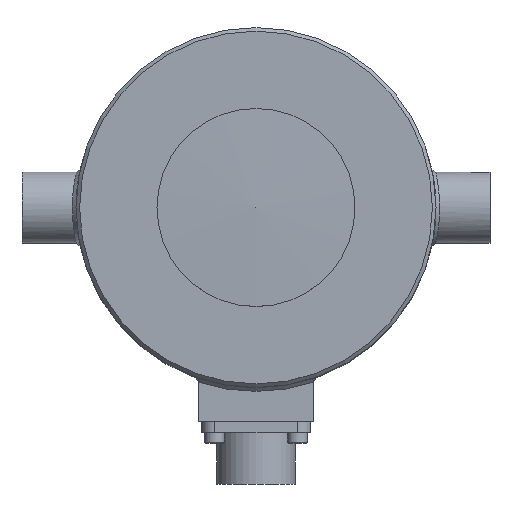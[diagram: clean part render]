
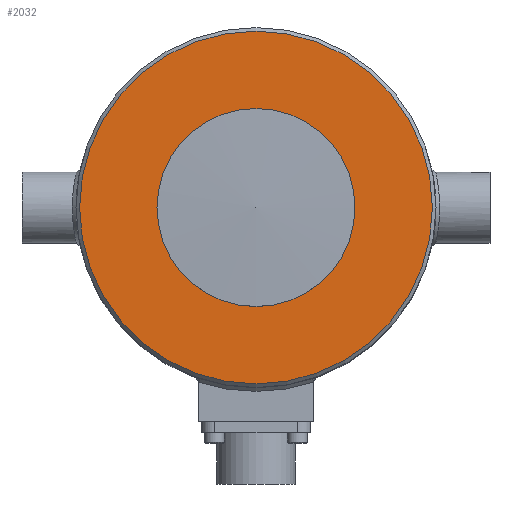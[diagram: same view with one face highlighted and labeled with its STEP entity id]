
A CAD part, top view. The second image highlights one B-rep face of the part: STEP entity #2032.
In plain terms, the highlighted planar face has unit normal (0, 0, 1).
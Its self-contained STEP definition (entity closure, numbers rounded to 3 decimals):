
#263=PLANE('',#2135);
#343=ORIENTED_EDGE('',*,*,#695,.F.);
#344=ORIENTED_EDGE('',*,*,#696,.T.);
#695=EDGE_CURVE('',#872,#872,#1006,.T.);
#696=EDGE_CURVE('',#873,#873,#1007,.F.);
#872=VERTEX_POINT('',#2668);
#873=VERTEX_POINT('',#2671);
#1006=CIRCLE('',#2134,27.5);
#1007=CIRCLE('',#2136,49.);
#1061=EDGE_LOOP('',(#343));
#1062=EDGE_LOOP('',(#344));
#1207=FACE_BOUND('',#1061,.T.);
#1208=FACE_BOUND('',#1062,.T.);
#2032=ADVANCED_FACE('',(#1207,#1208),#263,.T.);
#2134=AXIS2_PLACEMENT_3D('',#2667,#2282,#2283);
#2135=AXIS2_PLACEMENT_3D('',#2669,#2284,#2285);
#2136=AXIS2_PLACEMENT_3D('',#2670,#2286,#2287);
#2282=DIRECTION('',(0.,0.,1.));
#2283=DIRECTION('',(1.,0.,0.));
#2284=DIRECTION('',(0.,0.,1.));
#2285=DIRECTION('',(1.,0.,0.));
#2286=DIRECTION('',(0.,0.,-1.));
#2287=DIRECTION('',(-1.,0.,0.));
#2667=CARTESIAN_POINT('',(0.,0.,55.));
#2668=CARTESIAN_POINT('',(27.5,0.,55.));
#2669=CARTESIAN_POINT('',(27.5,0.,55.));
#2670=CARTESIAN_POINT('',(0.,0.,55.));
#2671=CARTESIAN_POINT('',(-49.,0.,55.));
